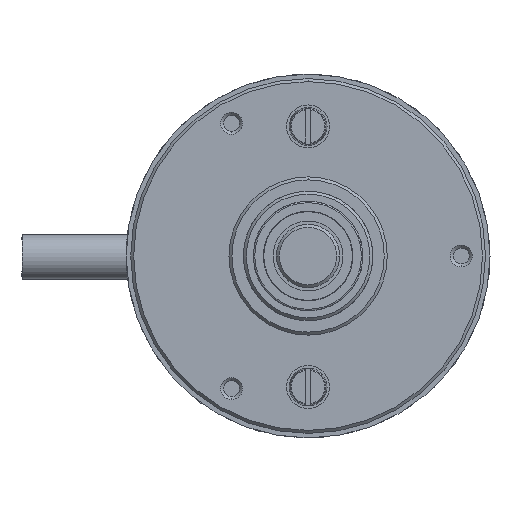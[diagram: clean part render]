
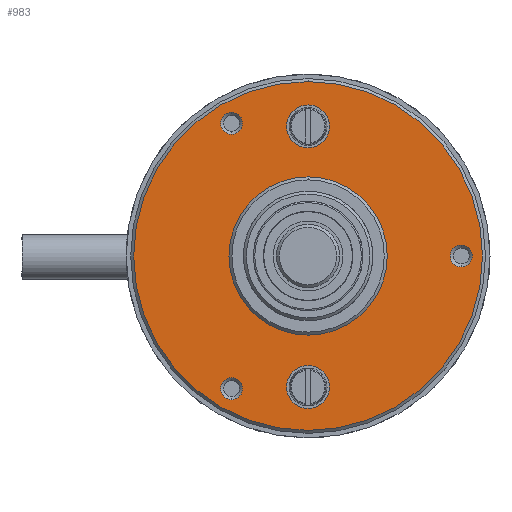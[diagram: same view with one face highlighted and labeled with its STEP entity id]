
A CAD part, left-side view. The second image highlights one B-rep face of the part: STEP entity #983.
In plain terms, the highlighted planar face has unit normal (-1, 0, 0).
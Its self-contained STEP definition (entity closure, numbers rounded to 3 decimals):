
#29 = DIRECTION ( 'NONE',  ( -1., 0., 0. ) ) ;
#36 = CIRCLE ( 'NONE', #752, 1.1 ) ;
#96 = AXIS2_PLACEMENT_3D ( 'NONE', #1743, #4868, #2157 ) ;
#174 = CARTESIAN_POINT ( 'NONE',  ( 15.678, 19.148, 33.766 ) ) ;
#261 = CARTESIAN_POINT ( 'NONE',  ( 15.678, 26.83, 34.072 ) ) ;
#288 = VERTEX_POINT ( 'NONE', #3872 ) ;
#332 = DIRECTION ( 'NONE',  ( 0., 0., -1. ) ) ;
#372 = DIRECTION ( 'NONE',  ( 1., 0., 0. ) ) ;
#373 = CARTESIAN_POINT ( 'NONE',  ( 15.678, 19.148, 28.706 ) ) ;
#377 = AXIS2_PLACEMENT_3D ( 'NONE', #2971, #372, #3408 ) ;
#429 = DIRECTION ( 'NONE',  ( -1., 0., 0. ) ) ;
#452 = CIRCLE ( 'NONE', #659, 1.1 ) ;
#459 = VERTEX_POINT ( 'NONE', #1309 ) ;
#601 = DIRECTION ( 'NONE',  ( 0., 0., 1. ) ) ;
#659 = AXIS2_PLACEMENT_3D ( 'NONE', #781, #3852, #1229 ) ;
#681 = DIRECTION ( 'NONE',  ( 0., 0., -1. ) ) ;
#724 = EDGE_CURVE ( 'NONE', #5609, #5574, #997, .T. ) ;
#752 = AXIS2_PLACEMENT_3D ( 'NONE', #5668, #2927, #332 ) ;
#781 = CARTESIAN_POINT ( 'NONE',  ( 15.678, 26.83, 34.072 ) ) ;
#838 = CARTESIAN_POINT ( 'NONE',  ( 15.678, 19.148, 20.766 ) ) ;
#854 = CIRCLE ( 'NONE', #3205, 1.1 ) ;
#896 = EDGE_CURVE ( 'NONE', #5530, #288, #854, .T. ) ;
#949 = CARTESIAN_POINT ( 'NONE',  ( 15.678, 19.148, 20.766 ) ) ;
#983 = ADVANCED_FACE ( 'NONE', ( #2365, #2506, #3572, #2476, #3558, #3556, #3550 ), #4180, .F. ) ;
#997 = CIRCLE ( 'NONE', #3461, 2.15 ) ;
#1014 = CIRCLE ( 'NONE', #1349, 1.1 ) ;
#1136 = CARTESIAN_POINT ( 'NONE',  ( 15.678, 26.83, 8.559 ) ) ;
#1155 = VERTEX_POINT ( 'NONE', #5359 ) ;
#1190 = CARTESIAN_POINT ( 'NONE',  ( 15.678, 19.148, 12.826 ) ) ;
#1229 = DIRECTION ( 'NONE',  ( 0., 0., -1. ) ) ;
#1264 = CARTESIAN_POINT ( 'NONE',  ( 15.678, 26.83, 32.972 ) ) ;
#1273 = DIRECTION ( 'NONE',  ( 0., 0., 1. ) ) ;
#1287 = DIRECTION ( 'NONE',  ( 1., 0., 0. ) ) ;
#1309 = CARTESIAN_POINT ( 'NONE',  ( 15.678, 19.148, 38.266 ) ) ;
#1349 = AXIS2_PLACEMENT_3D ( 'NONE', #3922, #1287, #4373 ) ;
#1396 = DIRECTION ( 'NONE',  ( 0., 0., -1. ) ) ;
#1461 = DIRECTION ( 'NONE',  ( 1., 0., 0. ) ) ;
#1485 = EDGE_CURVE ( 'NONE', #4033, #3413, #2952, .T. ) ;
#1530 = CIRCLE ( 'NONE', #1692, 17.5 ) ;
#1692 = AXIS2_PLACEMENT_3D ( 'NONE', #2414, #5625, #2877 ) ;
#1743 = CARTESIAN_POINT ( 'NONE',  ( 15.678, 19.148, 20.766 ) ) ;
#1934 = EDGE_CURVE ( 'NONE', #459, #5374, #4861, .T. ) ;
#1936 = DIRECTION ( 'NONE',  ( -1., 0., 0. ) ) ;
#2029 = CIRCLE ( 'NONE', #2070, 7.94 ) ;
#2044 = AXIS2_PLACEMENT_3D ( 'NONE', #2578, #29, #3047 ) ;
#2060 = AXIS2_PLACEMENT_3D ( 'NONE', #3032, #429, #3474 ) ;
#2070 = AXIS2_PLACEMENT_3D ( 'NONE', #838, #3907, #1273 ) ;
#2136 = CIRCLE ( 'NONE', #96, 7.94 ) ;
#2157 = DIRECTION ( 'NONE',  ( 0., 0., 1. ) ) ;
#2224 = EDGE_LOOP ( 'NONE', ( #3372, #3382 ) ) ;
#2365 = FACE_BOUND ( 'NONE', #3904, .T. ) ;
#2388 = CARTESIAN_POINT ( 'NONE',  ( 15.678, 35.808, 20.766 ) ) ;
#2407 = EDGE_CURVE ( 'NONE', #5325, #5517, #4755, .T. ) ;
#2414 = CARTESIAN_POINT ( 'NONE',  ( 15.678, 19.148, 20.766 ) ) ;
#2476 = FACE_OUTER_BOUND ( 'NONE', #4982, .T. ) ;
#2478 = AXIS2_PLACEMENT_3D ( 'NONE', #261, #3289, #681 ) ;
#2506 = FACE_BOUND ( 'NONE', #3416, .T. ) ;
#2553 = VERTEX_POINT ( 'NONE', #1136 ) ;
#2578 = CARTESIAN_POINT ( 'NONE',  ( 15.678, 19.148, 33.766 ) ) ;
#2580 = AXIS2_PLACEMENT_3D ( 'NONE', #949, #4038, #1396 ) ;
#2620 = AXIS2_PLACEMENT_3D ( 'NONE', #174, #3203, #601 ) ;
#2646 = CARTESIAN_POINT ( 'NONE',  ( 15.678, 19.148, 5.472 ) ) ;
#2736 = CIRCLE ( 'NONE', #2044, 2.15 ) ;
#2858 = DIRECTION ( 'NONE',  ( 0., 0., -1. ) ) ;
#2874 = CARTESIAN_POINT ( 'NONE',  ( 15.678, 19.148, 3.266 ) ) ;
#2877 = DIRECTION ( 'NONE',  ( 0., 0., -1. ) ) ;
#2927 = DIRECTION ( 'NONE',  ( 1., 0., 0. ) ) ;
#2952 = CIRCLE ( 'NONE', #2620, 2.15 ) ;
#2971 = CARTESIAN_POINT ( 'NONE',  ( 15.678, 26.83, 7.459 ) ) ;
#2997 = AXIS2_PLACEMENT_3D ( 'NONE', #2388, #5599, #2858 ) ;
#3004 = CARTESIAN_POINT ( 'NONE',  ( 15.678, 19.148, 31.616 ) ) ;
#3032 = CARTESIAN_POINT ( 'NONE',  ( 15.678, 19.148, 7.622 ) ) ;
#3047 = DIRECTION ( 'NONE',  ( 0., 0., 1. ) ) ;
#3090 = CARTESIAN_POINT ( 'NONE',  ( 15.678, 19.148, 9.772 ) ) ;
#3203 = DIRECTION ( 'NONE',  ( -1., 0., 0. ) ) ;
#3205 = AXIS2_PLACEMENT_3D ( 'NONE', #4113, #1461, #4555 ) ;
#3289 = DIRECTION ( 'NONE',  ( 1., 0., 0. ) ) ;
#3299 = ORIENTED_EDGE ( 'NONE', *, *, #896, .T. ) ;
#3300 = ORIENTED_EDGE ( 'NONE', *, *, #4985, .T. ) ;
#3306 = ORIENTED_EDGE ( 'NONE', *, *, #5194, .T. ) ;
#3329 = ORIENTED_EDGE ( 'NONE', *, *, #4926, .T. ) ;
#3333 = ORIENTED_EDGE ( 'NONE', *, *, #2407, .T. ) ;
#3361 = ORIENTED_EDGE ( 'NONE', *, *, #4997, .T. ) ;
#3363 = ORIENTED_EDGE ( 'NONE', *, *, #4884, .T. ) ;
#3366 = ORIENTED_EDGE ( 'NONE', *, *, #1934, .T. ) ;
#3369 = CARTESIAN_POINT ( 'NONE',  ( 15.678, 19.148, 35.916 ) ) ;
#3372 = ORIENTED_EDGE ( 'NONE', *, *, #4804, .F. ) ;
#3382 = ORIENTED_EDGE ( 'NONE', *, *, #1485, .F. ) ;
#3393 = ORIENTED_EDGE ( 'NONE', *, *, #4780, .F. ) ;
#3398 = ORIENTED_EDGE ( 'NONE', *, *, #724, .F. ) ;
#3405 = ORIENTED_EDGE ( 'NONE', *, *, #5547, .F. ) ;
#3408 = DIRECTION ( 'NONE',  ( 0., 0., -1. ) ) ;
#3413 = VERTEX_POINT ( 'NONE', #3369 ) ;
#3416 = EDGE_LOOP ( 'NONE', ( #3306, #3329 ) ) ;
#3428 = ORIENTED_EDGE ( 'NONE', *, *, #4769, .F. ) ;
#3461 = AXIS2_PLACEMENT_3D ( 'NONE', #4610, #1936, #5122 ) ;
#3474 = DIRECTION ( 'NONE',  ( 0., 0., 1. ) ) ;
#3507 = VERTEX_POINT ( 'NONE', #373 ) ;
#3550 = FACE_BOUND ( 'NONE', #4838, .T. ) ;
#3556 = FACE_BOUND ( 'NONE', #5646, .T. ) ;
#3558 = FACE_BOUND ( 'NONE', #2224, .T. ) ;
#3572 = FACE_BOUND ( 'NONE', #4944, .T. ) ;
#3649 = CARTESIAN_POINT ( 'NONE',  ( 15.678, 26.83, 35.172 ) ) ;
#3852 = DIRECTION ( 'NONE',  ( 1., 0., 0. ) ) ;
#3872 = CARTESIAN_POINT ( 'NONE',  ( 15.678, 3.783, 19.666 ) ) ;
#3904 = EDGE_LOOP ( 'NONE', ( #3299, #3300 ) ) ;
#3907 = DIRECTION ( 'NONE',  ( -1., 0., 0. ) ) ;
#3922 = CARTESIAN_POINT ( 'NONE',  ( 15.678, 26.83, 7.459 ) ) ;
#4033 = VERTEX_POINT ( 'NONE', #3004 ) ;
#4038 = DIRECTION ( 'NONE',  ( -1., 0., 0. ) ) ;
#4084 = CIRCLE ( 'NONE', #377, 1.1 ) ;
#4113 = CARTESIAN_POINT ( 'NONE',  ( 15.678, 3.783, 20.766 ) ) ;
#4180 = PLANE ( 'NONE',  #2997 ) ;
#4373 = DIRECTION ( 'NONE',  ( 0., 0., -1. ) ) ;
#4390 = CARTESIAN_POINT ( 'NONE',  ( 15.678, 3.783, 21.866 ) ) ;
#4555 = DIRECTION ( 'NONE',  ( 0., 0., -1. ) ) ;
#4610 = CARTESIAN_POINT ( 'NONE',  ( 15.678, 19.148, 7.622 ) ) ;
#4755 = CIRCLE ( 'NONE', #2478, 1.1 ) ;
#4769 = EDGE_CURVE ( 'NONE', #5418, #3507, #2029, .T. ) ;
#4780 = EDGE_CURVE ( 'NONE', #5574, #5609, #5016, .T. ) ;
#4804 = EDGE_CURVE ( 'NONE', #3413, #4033, #2736, .T. ) ;
#4838 = EDGE_LOOP ( 'NONE', ( #3405, #3428 ) ) ;
#4861 = CIRCLE ( 'NONE', #2580, 17.5 ) ;
#4868 = DIRECTION ( 'NONE',  ( -1., 0., 0. ) ) ;
#4884 = EDGE_CURVE ( 'NONE', #5374, #459, #1530, .T. ) ;
#4926 = EDGE_CURVE ( 'NONE', #1155, #2553, #1014, .T. ) ;
#4944 = EDGE_LOOP ( 'NONE', ( #3333, #3361 ) ) ;
#4982 = EDGE_LOOP ( 'NONE', ( #3363, #3366 ) ) ;
#4985 = EDGE_CURVE ( 'NONE', #288, #5530, #36, .T. ) ;
#4997 = EDGE_CURVE ( 'NONE', #5517, #5325, #452, .T. ) ;
#5016 = CIRCLE ( 'NONE', #2060, 2.15 ) ;
#5122 = DIRECTION ( 'NONE',  ( 0., 0., 1. ) ) ;
#5194 = EDGE_CURVE ( 'NONE', #2553, #1155, #4084, .T. ) ;
#5325 = VERTEX_POINT ( 'NONE', #3649 ) ;
#5359 = CARTESIAN_POINT ( 'NONE',  ( 15.678, 26.83, 6.359 ) ) ;
#5374 = VERTEX_POINT ( 'NONE', #2874 ) ;
#5418 = VERTEX_POINT ( 'NONE', #1190 ) ;
#5517 = VERTEX_POINT ( 'NONE', #1264 ) ;
#5530 = VERTEX_POINT ( 'NONE', #4390 ) ;
#5547 = EDGE_CURVE ( 'NONE', #3507, #5418, #2136, .T. ) ;
#5574 = VERTEX_POINT ( 'NONE', #3090 ) ;
#5599 = DIRECTION ( 'NONE',  ( 1., 0., 0. ) ) ;
#5609 = VERTEX_POINT ( 'NONE', #2646 ) ;
#5625 = DIRECTION ( 'NONE',  ( -1., 0., 0. ) ) ;
#5646 = EDGE_LOOP ( 'NONE', ( #3393, #3398 ) ) ;
#5668 = CARTESIAN_POINT ( 'NONE',  ( 15.678, 3.783, 20.766 ) ) ;
